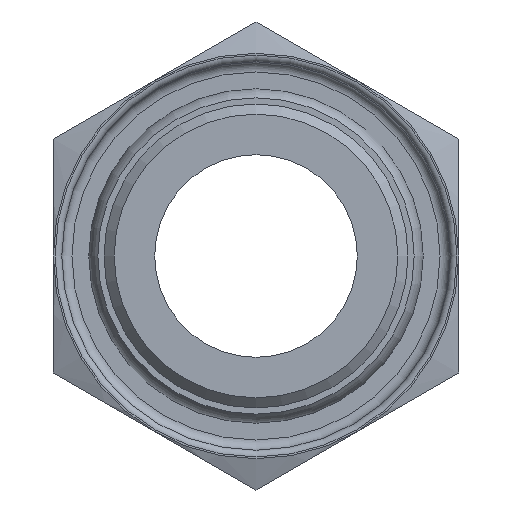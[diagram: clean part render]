
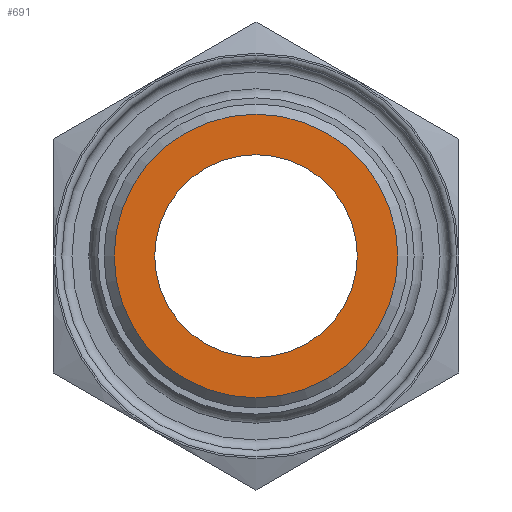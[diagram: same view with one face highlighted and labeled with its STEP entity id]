
A CAD part, front view. The second image highlights one B-rep face of the part: STEP entity #691.
In plain terms, the highlighted planar face has unit normal (0, -1, 0).
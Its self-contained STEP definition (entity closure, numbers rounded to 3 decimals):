
#78=FACE_BOUND('',#198,.T.);
#95=PLANE('',#853);
#143=FACE_OUTER_BOUND('',#197,.T.);
#197=EDGE_LOOP('',(#613));
#198=EDGE_LOOP('',(#614));
#288=CIRCLE('',#854,4.2);
#289=CIRCLE('',#855,3.);
#349=VERTEX_POINT('',#1330);
#350=VERTEX_POINT('',#1332);
#439=EDGE_CURVE('',#349,#349,#288,.T.);
#440=EDGE_CURVE('',#350,#350,#289,.T.);
#613=ORIENTED_EDGE('',*,*,#439,.F.);
#614=ORIENTED_EDGE('',*,*,#440,.T.);
#691=ADVANCED_FACE('',(#143,#78),#95,.T.);
#853=AXIS2_PLACEMENT_3D('',#1329,#1057,#1058);
#854=AXIS2_PLACEMENT_3D('',#1331,#1059,#1060);
#855=AXIS2_PLACEMENT_3D('',#1333,#1061,#1062);
#1057=DIRECTION('center_axis',(0.,-1.,0.));
#1058=DIRECTION('ref_axis',(0.,0.,-1.));
#1059=DIRECTION('center_axis',(0.,1.,0.));
#1060=DIRECTION('ref_axis',(-1.,0.,0.));
#1061=DIRECTION('center_axis',(0.,1.,0.));
#1062=DIRECTION('ref_axis',(1.,0.,0.));
#1329=CARTESIAN_POINT('Origin',(0.,-5.5,0.));
#1330=CARTESIAN_POINT('',(4.2,-5.5,0.));
#1331=CARTESIAN_POINT('Origin',(0.,-5.5,0.));
#1332=CARTESIAN_POINT('',(-3.,-5.5,0.));
#1333=CARTESIAN_POINT('Origin',(0.,-5.5,0.));
